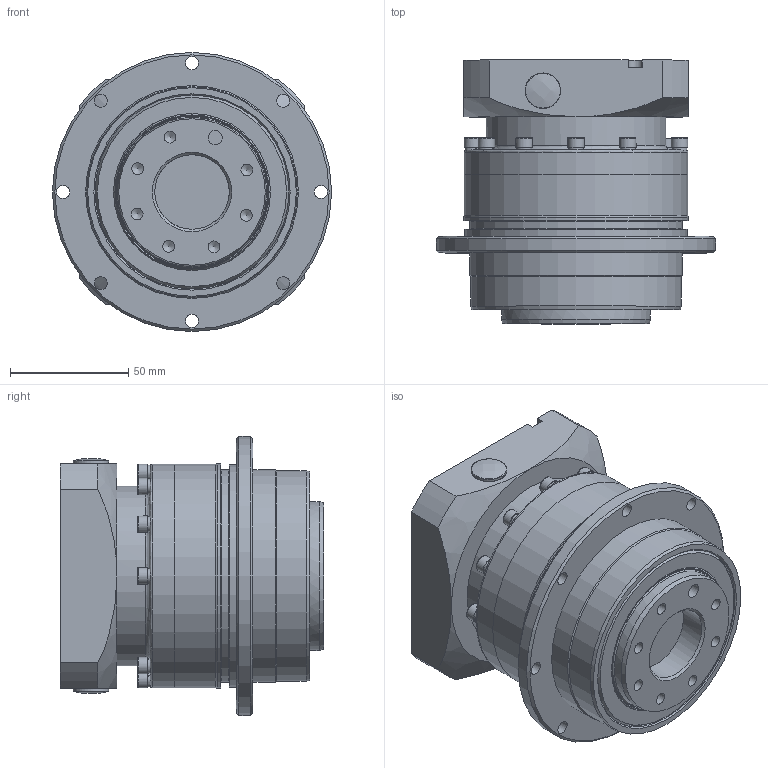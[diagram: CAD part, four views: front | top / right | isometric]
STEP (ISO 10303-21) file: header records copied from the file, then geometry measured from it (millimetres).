
FILE_DESCRIPTION (( 'STEP AP203' ), '1' );
FILE_NAME ('AD90L1-i-P2-OP2-19-40-80-100-M6.STEP', '2025-08-21T01:18:56', ( 'User' ), ( '' ), 'SwSTEP 2.0', 'SolidWorks 2020', '' );
FILE_SCHEMA (( 'CONFIG_CONTROL_DESIGN' ));
Length unit declared in the file: millimetre
Products named in the file (1): AD90L1-i-P2-OP2-19-40-80-100-M6
Bounding box: 118 x 111.5 x 118 mm (x, y, z)
Volume: 648357.9 mm3; surface area: 191031.4 mm2
Topology: 48 solids, 48 shells, 838 faces, 2046 edges, 1340 vertices
Faces by surface type: plane 368, cylinder 227, bspline 155, cone 88
Full cylindrical faces by diameter (mm): 2 x2, 2.5 x2, 3 x4, 3.3 x10, 4 x10, 4.2 x4, 4.5 x10, 5 x16, 5.5 x12, 6 x6, 7 x11, 8.5 x4, 10 x5, 11.8 x2, 12.8 x2, 13 x2, 13.8 x2, 15 x2, 19 x1, 19.2 x1, 19.5 x1, 31.5 x1, 33 x1, 35 x3, 41.1 x2, 42 x2, 43.472 x1, 46.528 x1, 47 x1, 48.9 x2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
Entity records: 35532 total; most frequent: CARTESIAN_POINT 18851, DIRECTION 3172, ORIENTED_EDGE 3086, EDGE_CURVE 1543, EDGE_LOOP 1328, AXIS2_PLACEMENT_3D 1313, VERTEX_POINT 1163, FACE_OUTER_BOUND 1079
